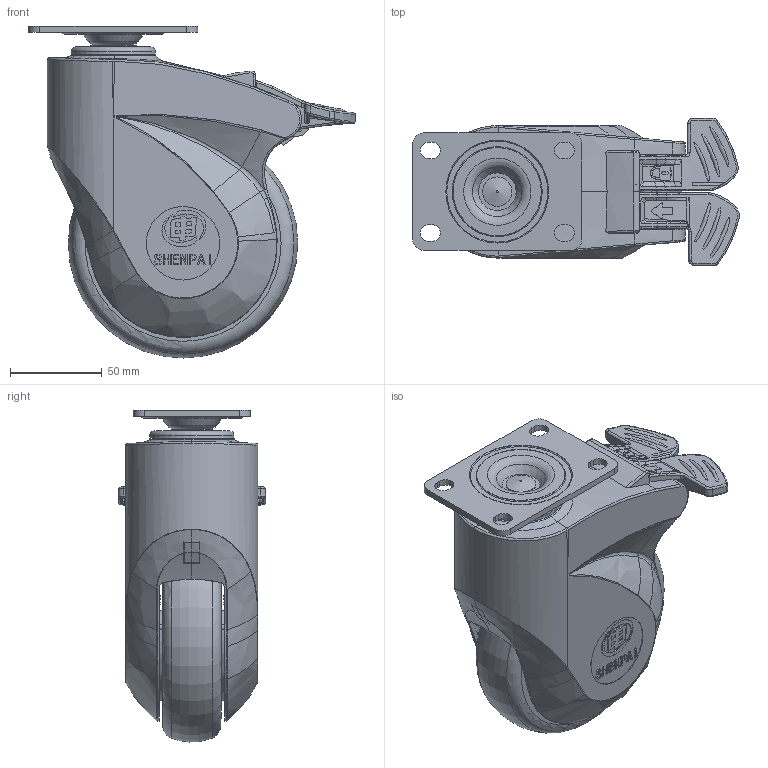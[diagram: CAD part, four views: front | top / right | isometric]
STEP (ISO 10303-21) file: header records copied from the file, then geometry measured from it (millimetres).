
FILE_DESCRIPTION(/* description */ (''),/* implementation_level */ '2;1');
FILE_NAME(/* name */ '80C09_5_F.stp',/* time_stamp */ '2022-10-17T15:25:09+08:00',/* author */ (''),/* organization */ (''),/* preprocessor_version */ 'ST-DEVELOPER v14',/* originating_system */ 'SIEMENS PLM Software NX 8.0',/* authorisation */ '');
FILE_SCHEMA (('AUTOMOTIVE_DESIGN { 1 0 10303 214 3 1 1 1 }'));
Products named in the file (1): 80C09_5_F
Bounding box: 177.76 x 80.2 x 180.77 mm (x, y, z)
Volume: 504504.8 mm3; surface area: 243838.3 mm2
Topology: 1 solids, 13 shells, 2972 faces, 8251 edges, 5372 vertices
Faces by surface type: plane 1320, cylinder 829, bspline 536, torus 208, cone 73, sphere 6
Full cylindrical faces by diameter (mm): 1.7 x1, 1.8 x1, 2 x2, 2.7 x2, 4 x13, 4.2 x5, 4.6 x1, 5 x5, 5.1 x2, 5.5 x2, 6 x5, 7.3 x2, 8 x5, 9 x1, 9.1 x1, 10 x3, 10.2 x2, 12 x1, 12.2 x1, 15 x2, 15.2 x2, 16 x2, 21.6 x4, 24 x2, 26 x1, 28 x1, 29.4 x4, 30 x1, 32 x2, 35 x1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
Entity records: 128502 total; most frequent: CARTESIAN_POINT 59977, ORIENTED_EDGE 16060, DIRECTION 11632, EDGE_CURVE 8030, VERTEX_POINT 5305, AXIS2_PLACEMENT_3D 4163, EDGE_LOOP 3321, LINE 3306
